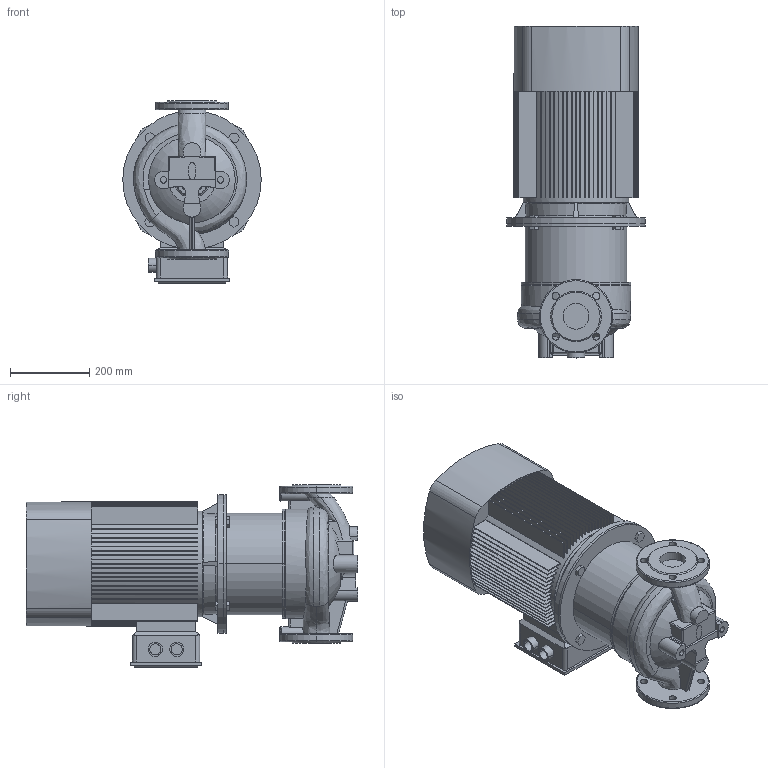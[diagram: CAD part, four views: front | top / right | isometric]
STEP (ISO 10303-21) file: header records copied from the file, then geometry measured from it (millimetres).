
FILE_DESCRIPTION (( 'STEP AP203' ), '1' );
FILE_NAME ('TD65-41G_2.STEP', '2022-04-28T14:56:38', ( '' ), ( '' ), 'SwSTEP 2.0', 'SolidWorks 2019', '' );
FILE_SCHEMA (( 'CONFIG_CONTROL_DESIGN' ));
Length unit declared in the file: millimetre
Products named in the file (4): ED_B5_YE2-160M1-2 (11); TD65-41G_2; Pr_ch 65 - 41_51_TD65-41G_2; Fon_65_TD65-41G_2
Assembly tree (3 placements, depth 2):
  TD65-41G_2
    Pr_ch 65 - 41_51_TD65-41G_2
    Fon_65_TD65-41G_2
    ED_B5_YE2-160M1-2 (11)
Bounding box: 350 x 839 x 461 mm (x, y, z)
Volume: 48543170.6 mm3; surface area: 2652340.6 mm2
Topology: 13 solids, 15 shells, 736 faces, 1996 edges, 1312 vertices
Faces by surface type: plane 512, cylinder 144, torus 33, bspline 28, cone 17, sphere 2
Entity records: 30182 total; most frequent: CARTESIAN_POINT 11009, ORIENTED_EDGE 3988, DIRECTION 3906, EDGE_CURVE 1994, AXIS2_PLACEMENT_3D 1368, VERTEX_POINT 1312, LINE 1170, VECTOR 1170
